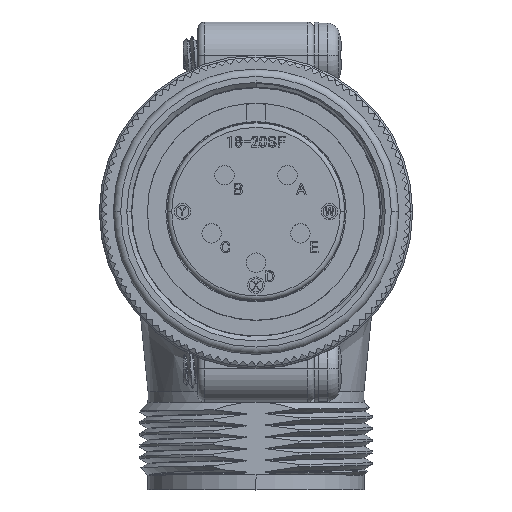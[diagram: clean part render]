
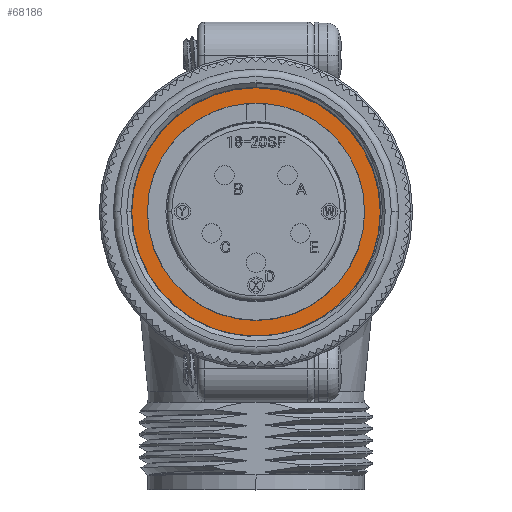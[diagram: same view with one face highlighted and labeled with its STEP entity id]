
A CAD part, top view. The second image highlights one B-rep face of the part: STEP entity #68186.
In plain terms, the highlighted planar face has unit normal (0, 0, 1).
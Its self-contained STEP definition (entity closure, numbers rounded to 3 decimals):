
#2346 = FACE_BOUND ( 'NONE', #64573, .T. ) ;
#2850 = CARTESIAN_POINT ( 'NONE',  ( -13.51, 0., -18.25 ) ) ;
#5350 = AXIS2_PLACEMENT_3D ( 'NONE', #69452, #19468, #77860 ) ;
#13642 = DIRECTION ( 'NONE',  ( -1., 0., 0. ) ) ;
#14312 = CIRCLE ( 'NONE', #105523, 11.81 ) ;
#14742 = DIRECTION ( 'NONE',  ( 0., 0., 1. ) ) ;
#17333 = CARTESIAN_POINT ( 'NONE',  ( 13.51, 0., -18.25 ) ) ;
#19468 = DIRECTION ( 'NONE',  ( 0., 0., 1. ) ) ;
#22815 = CARTESIAN_POINT ( 'NONE',  ( 0., 0., -18.25 ) ) ;
#25044 = ORIENTED_EDGE ( 'NONE', *, *, #68720, .F. ) ;
#30101 = PLANE ( 'NONE',  #66360 ) ;
#31220 = DIRECTION ( 'NONE',  ( 1., 0., 0. ) ) ;
#38990 = FACE_OUTER_BOUND ( 'NONE', #74095, .T. ) ;
#39813 = EDGE_CURVE ( 'NONE', #56447, #71902, #14312, .T. ) ;
#40484 = CARTESIAN_POINT ( 'NONE',  ( -11.81, 0., -18.25 ) ) ;
#46726 = CIRCLE ( 'NONE', #97896, 11.81 ) ;
#48599 = CARTESIAN_POINT ( 'NONE',  ( 0., 0., -18.25 ) ) ;
#56447 = VERTEX_POINT ( 'NONE', #40484 ) ;
#56988 = DIRECTION ( 'NONE',  ( 1., 0., 0. ) ) ;
#63278 = CARTESIAN_POINT ( 'NONE',  ( 0., 11.81, -18.25 ) ) ;
#63628 = DIRECTION ( 'NONE',  ( 0., 0., -1. ) ) ;
#64573 = EDGE_LOOP ( 'NONE', ( #25044, #102044 ) ) ;
#64767 = CARTESIAN_POINT ( 'NONE',  ( 0., 0., -18.25 ) ) ;
#66360 = AXIS2_PLACEMENT_3D ( 'NONE', #63278, #63628, #13642 ) ;
#68186 = ADVANCED_FACE ( 'NONE', ( #2346, #38990 ), #30101, .F. ) ;
#68720 = EDGE_CURVE ( 'NONE', #71902, #56447, #46726, .T. ) ;
#69452 = CARTESIAN_POINT ( 'NONE',  ( 0., 0., -18.25 ) ) ;
#71044 = CARTESIAN_POINT ( 'NONE',  ( 11.81, 0., -18.25 ) ) ;
#71902 = VERTEX_POINT ( 'NONE', #71044 ) ;
#73152 = DIRECTION ( 'NONE',  ( 1., 0., 0. ) ) ;
#74095 = EDGE_LOOP ( 'NONE', ( #98115, #76199 ) ) ;
#76199 = ORIENTED_EDGE ( 'NONE', *, *, #76560, .T. ) ;
#76560 = EDGE_CURVE ( 'NONE', #92442, #81593, #105924, .T. ) ;
#77860 = DIRECTION ( 'NONE',  ( 1., 0., 0. ) ) ;
#79689 = EDGE_CURVE ( 'NONE', #81593, #92442, #88435, .T. ) ;
#80039 = AXIS2_PLACEMENT_3D ( 'NONE', #64767, #14742, #73152 ) ;
#81216 = DIRECTION ( 'NONE',  ( 0., 0., 1. ) ) ;
#81593 = VERTEX_POINT ( 'NONE', #17333 ) ;
#88435 = CIRCLE ( 'NONE', #5350, 13.51 ) ;
#92442 = VERTEX_POINT ( 'NONE', #2850 ) ;
#97896 = AXIS2_PLACEMENT_3D ( 'NONE', #48599, #107066, #56988 ) ;
#98115 = ORIENTED_EDGE ( 'NONE', *, *, #79689, .T. ) ;
#102044 = ORIENTED_EDGE ( 'NONE', *, *, #39813, .F. ) ;
#105523 = AXIS2_PLACEMENT_3D ( 'NONE', #22815, #81216, #31220 ) ;
#105924 = CIRCLE ( 'NONE', #80039, 13.51 ) ;
#107066 = DIRECTION ( 'NONE',  ( 0., 0., 1. ) ) ;
